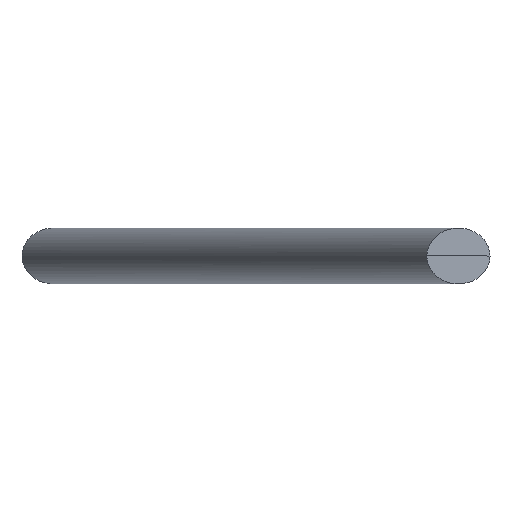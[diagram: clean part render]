
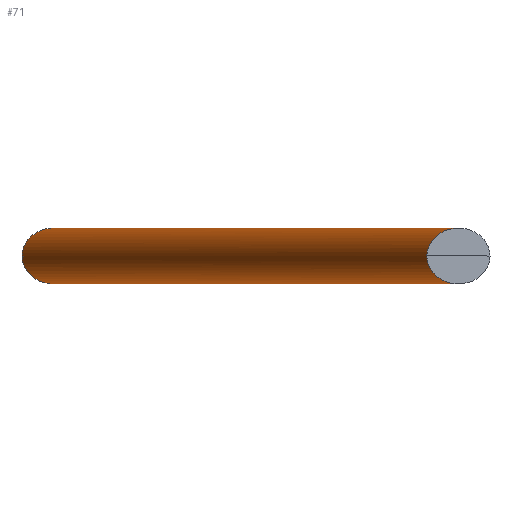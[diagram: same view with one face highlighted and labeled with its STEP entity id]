
A CAD part, front view. The second image highlights one B-rep face of the part: STEP entity #71.
In plain terms, the highlighted cylindrical face has radius 15 mm (diameter 30 mm), a full revolution.
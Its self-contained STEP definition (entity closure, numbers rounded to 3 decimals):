
#14=FACE_BOUND('',#26,.T.);
#15=CYLINDRICAL_SURFACE('',#94,15.);
#20=FACE_OUTER_BOUND('',#25,.T.);
#25=EDGE_LOOP('',(#53,#54));
#26=EDGE_LOOP('',(#55,#56));
#27=ELLIPSE('',#87,16.989,15.);
#28=ELLIPSE('',#89,16.989,15.);
#29=ELLIPSE('',#91,16.989,15.);
#30=ELLIPSE('',#93,16.989,15.);
#35=VERTEX_POINT('',#119);
#36=VERTEX_POINT('',#120);
#37=VERTEX_POINT('',#124);
#38=VERTEX_POINT('',#125);
#40=EDGE_CURVE('',#36,#35,#27,.T.);
#42=EDGE_CURVE('',#38,#37,#28,.T.);
#43=EDGE_CURVE('',#35,#36,#29,.T.);
#44=EDGE_CURVE('',#37,#38,#30,.T.);
#53=ORIENTED_EDGE('',*,*,#43,.T.);
#54=ORIENTED_EDGE('',*,*,#40,.T.);
#55=ORIENTED_EDGE('',*,*,#42,.T.);
#56=ORIENTED_EDGE('',*,*,#44,.T.);
#71=ADVANCED_FACE('',(#20,#14),#15,.T.);
#87=AXIS2_PLACEMENT_3D('',#122,#100,#101);
#89=AXIS2_PLACEMENT_3D('',#127,#105,#106);
#91=AXIS2_PLACEMENT_3D('',#129,#109,#110);
#93=AXIS2_PLACEMENT_3D('',#131,#113,#114);
#94=AXIS2_PLACEMENT_3D('',#132,#115,#116);
#100=DIRECTION('center_axis',(0.,1.,0.));
#101=DIRECTION('ref_axis',(-1.,0.,0.));
#105=DIRECTION('center_axis',(0.,-1.,0.));
#106=DIRECTION('ref_axis',(-1.,0.,0.));
#109=DIRECTION('center_axis',(0.,1.,0.));
#110=DIRECTION('ref_axis',(-1.,0.,0.));
#113=DIRECTION('center_axis',(0.,-1.,0.));
#114=DIRECTION('ref_axis',(-1.,0.,0.));
#115=DIRECTION('center_axis',(-0.469,0.883,0.));
#116=DIRECTION('ref_axis',(-0.883,-0.469,0.));
#119=CARTESIAN_POINT('',(1561.413,30.,-470.));
#120=CARTESIAN_POINT('',(1527.436,30.,-470.));
#122=CARTESIAN_POINT('Origin',(1544.424,30.,-470.));
#124=CARTESIAN_POINT('',(1343.412,440.,-470.));
#125=CARTESIAN_POINT('',(1309.435,440.,-470.));
#127=CARTESIAN_POINT('Origin',(1326.423,440.,-470.));
#129=CARTESIAN_POINT('Origin',(1544.424,30.,-470.));
#131=CARTESIAN_POINT('Origin',(1326.423,440.,-470.));
#132=CARTESIAN_POINT('Origin',(1435.424,235.,-470.));
